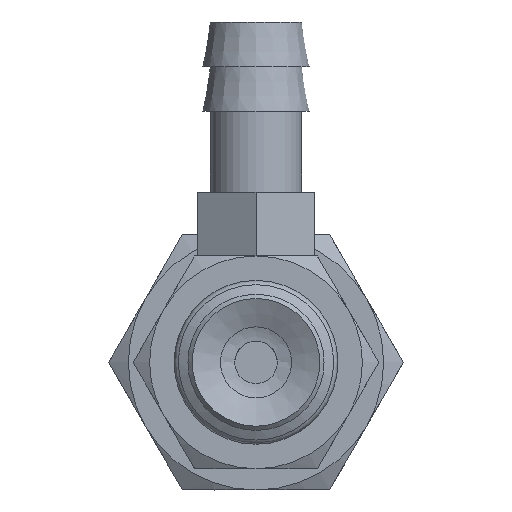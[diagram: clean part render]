
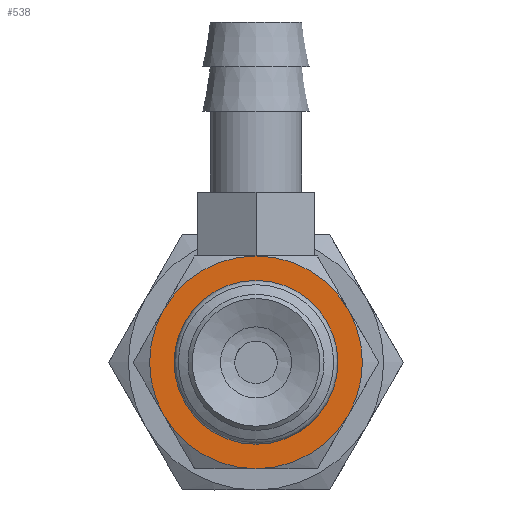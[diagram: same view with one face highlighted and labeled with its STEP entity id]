
A CAD part, front view. The second image highlights one B-rep face of the part: STEP entity #538.
In plain terms, the highlighted planar face has unit normal (0, -1, 0).
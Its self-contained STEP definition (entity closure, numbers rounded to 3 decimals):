
#538=ADVANCED_FACE('',(#782,#783),#784,.T.);
#782=FACE_BOUND('',#1114,.T.);
#783=FACE_OUTER_BOUND('',#1115,.T.);
#784=PLANE('',#1116);
#1114=EDGE_LOOP('',(#1860));
#1115=EDGE_LOOP('',(#1861,#1862,#1863,#1864,#1865,#1866));
#1116=AXIS2_PLACEMENT_3D('',#1867,#1868,#1869);
#1860=ORIENTED_EDGE('',*,*,#2323,.F.);
#1861=ORIENTED_EDGE('',*,*,#2330,.T.);
#1862=ORIENTED_EDGE('',*,*,#2273,.T.);
#1863=ORIENTED_EDGE('',*,*,#2328,.T.);
#1864=ORIENTED_EDGE('',*,*,#2336,.T.);
#1865=ORIENTED_EDGE('',*,*,#2257,.T.);
#1866=ORIENTED_EDGE('',*,*,#2271,.T.);
#1867=CARTESIAN_POINT('',(2.0,0.,0.0));
#1868=DIRECTION('',(0.0,-1.0,0.0));
#1869=DIRECTION('',(0.0,0.0,-1.0));
#2257=EDGE_CURVE('',#2547,#2561,#2563,.T.);
#2271=EDGE_CURVE('',#2561,#2585,#2588,.T.);
#2273=EDGE_CURVE('',#2590,#2578,#2591,.T.);
#2323=EDGE_CURVE('',#2676,#2676,#2677,.T.);
#2328=EDGE_CURVE('',#2578,#2564,#2685,.T.);
#2330=EDGE_CURVE('',#2585,#2590,#2687,.T.);
#2336=EDGE_CURVE('',#2564,#2547,#2696,.T.);
#2547=VERTEX_POINT('',#3235);
#2561=VERTEX_POINT('',#3261);
#2563=CIRCLE('',#3265,5.0);
#2564=VERTEX_POINT('',#3266);
#2578=VERTEX_POINT('',#3291);
#2585=VERTEX_POINT('',#3305);
#2588=CIRCLE('',#3310,5.0);
#2590=VERTEX_POINT('',#3314);
#2591=CIRCLE('',#3315,5.0);
#2676=VERTEX_POINT('',#3495);
#2677=CIRCLE('',#3496,2.0);
#2685=CIRCLE('',#3507,5.0);
#2687=CIRCLE('',#3509,5.0);
#2696=CIRCLE('',#3523,5.0);
#3235=CARTESIAN_POINT('',(-4.33,0.,2.5));
#3261=CARTESIAN_POINT('',(-4.33,0.0,-2.5));
#3265=AXIS2_PLACEMENT_3D('',#3770,#3771,#3772);
#3266=CARTESIAN_POINT('',(0.0,0.0,5.0));
#3291=CARTESIAN_POINT('',(4.33,0.0,2.5));
#3305=CARTESIAN_POINT('',(0.0,0.0,-5.0));
#3310=AXIS2_PLACEMENT_3D('',#3781,#3782,#3783);
#3314=CARTESIAN_POINT('',(4.33,0.0,-2.5));
#3315=AXIS2_PLACEMENT_3D('',#3784,#3785,#3786);
#3495=CARTESIAN_POINT('',(0.0,0.,-2.0));
#3496=AXIS2_PLACEMENT_3D('',#3853,#3854,#3855);
#3507=AXIS2_PLACEMENT_3D('',#3862,#3863,#3864);
#3509=AXIS2_PLACEMENT_3D('',#3868,#3869,#3870);
#3523=AXIS2_PLACEMENT_3D('',#3877,#3878,#3879);
#3770=CARTESIAN_POINT('',(0.0,0.,0.0));
#3771=DIRECTION('',(0.0,-1.0,0.0));
#3772=DIRECTION('',(0.0,0.0,-1.0));
#3781=CARTESIAN_POINT('',(0.0,0.,0.0));
#3782=DIRECTION('',(0.0,-1.0,0.0));
#3783=DIRECTION('',(0.0,0.0,-1.0));
#3784=CARTESIAN_POINT('',(0.0,0.,0.0));
#3785=DIRECTION('',(0.0,-1.0,0.0));
#3786=DIRECTION('',(0.0,0.0,-1.0));
#3853=CARTESIAN_POINT('',(0.0,0.,0.0));
#3854=DIRECTION('',(0.0,-1.0,0.0));
#3855=DIRECTION('',(0.0,0.0,-1.0));
#3862=CARTESIAN_POINT('',(0.0,0.,0.0));
#3863=DIRECTION('',(0.0,-1.0,0.0));
#3864=DIRECTION('',(0.0,0.0,-1.0));
#3868=CARTESIAN_POINT('',(0.0,0.,0.0));
#3869=DIRECTION('',(0.0,-1.0,0.0));
#3870=DIRECTION('',(0.0,0.0,-1.0));
#3877=CARTESIAN_POINT('',(0.0,0.,0.0));
#3878=DIRECTION('',(0.0,-1.0,0.0));
#3879=DIRECTION('',(0.0,0.0,-1.0));
